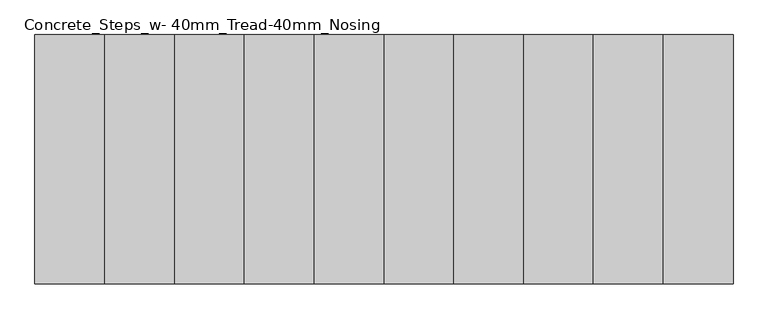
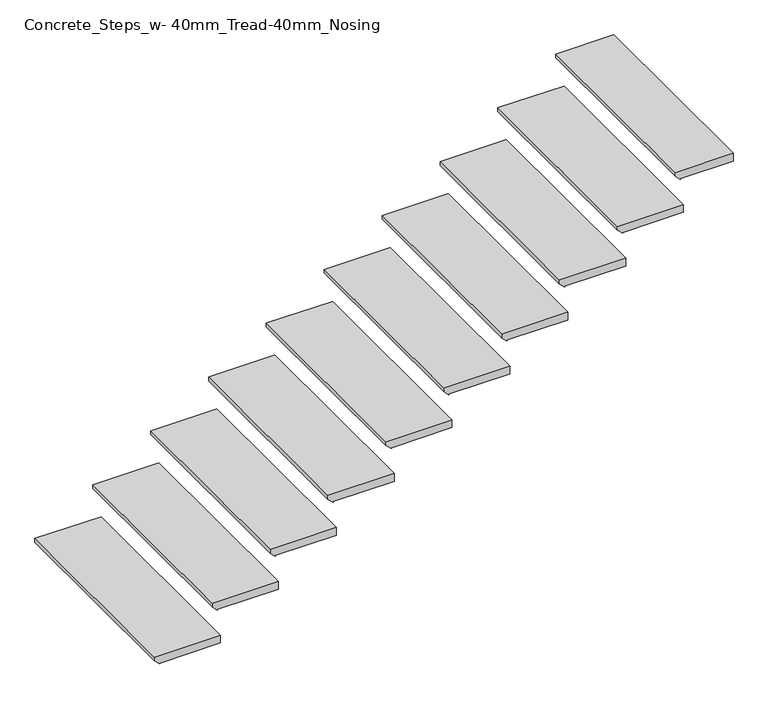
"""IFC4 building model written with IfcOpenShell, lengths in millimetres: stair flight geometry, Concrete_Steps_w- 40mm_Tread-40mm_Nosing."""

from ifc_helpers import new_model, si_unit, frame, origin, place, context, project, spatial, polyline, outline, extrude, source, transform, mapped, element, save


def concrete_steps_w_40mm_tread_40mm_nosing_ad7ad8f2(model_context):
    return source(origin(), model_context, "Body", "SweptSolid", [
        extrude(outline(polyline([(7627.5, 35605.7942367), (7627.5, 35285.7942367), (7608.45, 35285.7942367), (7583.05, 35311.1942367), (7587.5, 35311.1942367), (7587.5, 35605.7942367), (7627.5, 35605.7942367)])), frame((0.0, -998.1974508, 0.0), z_axis=(0.0, 1.0, 0.0), x_axis=(0.0, 0.0, 1.0)), (0.0, 0.0, 1.0), 1000.0),
        extrude(outline(polyline([(7805.0, 35885.7942367), (7805.0, 35565.7942367), (7785.95, 35565.7942367), (7760.55, 35591.1942367), (7765.0, 35591.1942367), (7765.0, 35885.7942367), (7805.0, 35885.7942367)])), frame((0.0, -998.1974508, 0.0), z_axis=(0.0, 1.0, 0.0), x_axis=(0.0, 0.0, 1.0)), (0.0, 0.0, 1.0), 1000.0),
        extrude(outline(polyline([(7982.5, 36165.7942367), (7982.5, 35845.7942367), (7963.45, 35845.7942367), (7938.05, 35871.1942367), (7942.5, 35871.1942367), (7942.5, 36165.7942367), (7982.5, 36165.7942367)])), frame((0.0, -998.1974508, 0.0), z_axis=(0.0, 1.0, 0.0), x_axis=(0.0, 0.0, 1.0)), (0.0, 0.0, 1.0), 1000.0),
        extrude(outline(polyline([(8160.0, 36445.7942367), (8160.0, 36125.7942367), (8140.95, 36125.7942367), (8115.55, 36151.1942367), (8120.0, 36151.1942367), (8120.0, 36445.7942367), (8160.0, 36445.7942367)])), frame((0.0, -998.1974508, 0.0), z_axis=(0.0, 1.0, 0.0), x_axis=(0.0, 0.0, 1.0)), (0.0, 0.0, 1.0), 1000.0),
        extrude(outline(polyline([(8337.5, 36725.7942367), (8337.5, 36405.7942367), (8318.45, 36405.7942367), (8293.05, 36431.1942367), (8297.5, 36431.1942367), (8297.5, 36725.7942367), (8337.5, 36725.7942367)])), frame((0.0, -998.1974508, 0.0), z_axis=(0.0, 1.0, 0.0), x_axis=(0.0, 0.0, 1.0)), (0.0, 0.0, 1.0), 1000.0),
        extrude(outline(polyline([(8515.0, 37005.7942367), (8515.0, 36685.7942367), (8495.95, 36685.7942367), (8470.55, 36711.1942367), (8475.0, 36711.1942367), (8475.0, 37005.7942367), (8515.0, 37005.7942367)])), frame((0.0, -998.1974508, 0.0), z_axis=(0.0, 1.0, 0.0), x_axis=(0.0, 0.0, 1.0)), (0.0, 0.0, 1.0), 1000.0),
        extrude(outline(polyline([(8692.5, 37285.7942367), (8692.5, 36965.7942367), (8673.45, 36965.7942367), (8648.05, 36991.1942367), (8652.5, 36991.1942367), (8652.5, 37285.7942367), (8692.5, 37285.7942367)])), frame((0.0, -998.1974508, 0.0), z_axis=(0.0, 1.0, 0.0), x_axis=(0.0, 0.0, 1.0)), (0.0, 0.0, 1.0), 1000.0),
        extrude(outline(polyline([(8870.0, 37565.7942367), (8870.0, 37245.7942367), (8850.95, 37245.7942367), (8825.55, 37271.1942367), (8830.0, 37271.1942367), (8830.0, 37565.7942367), (8870.0, 37565.7942367)])), frame((0.0, -998.1974508, 0.0), z_axis=(0.0, 1.0, 0.0), x_axis=(0.0, 0.0, 1.0)), (0.0, 0.0, 1.0), 1000.0),
        extrude(outline(polyline([(9047.5, 37845.7942367), (9047.5, 37525.7942367), (9028.45, 37525.7942367), (9003.05, 37551.1942367), (9007.5, 37551.1942367), (9007.5, 37845.7942367), (9047.5, 37845.7942367)])), frame((0.0, -998.1974508, 0.0), z_axis=(0.0, 1.0, 0.0), x_axis=(0.0, 0.0, 1.0)), (0.0, 0.0, 1.0), 1000.0),
        extrude(outline(polyline([(9225.0, 38085.7942367), (9225.0, 37805.7942367), (9205.95, 37805.7942367), (9180.55, 37831.1942367), (9185.0, 37831.1942367), (9185.0, 38085.7942367), (9225.0, 38085.7942367)])), frame((0.0, -998.1974508, 0.0), z_axis=(0.0, 1.0, 0.0), x_axis=(0.0, 0.0, 1.0)), (0.0, 0.0, 1.0), 1000.0),
    ])


if __name__ == "__main__":
    model = new_model("IFC4")
    model_context = context("Model", 3, world=origin())
    ifc_project = project(units=[si_unit("LENGTHUNIT", "METRE", prefix="MILLI")], contexts=[model_context])
    site = spatial("IfcSite", under=ifc_project)
    building = spatial("IfcBuilding", under=site)
    placement = place(None, origin())
    concrete_steps_w_40mm_tread_40mm_nosing_shape = concrete_steps_w_40mm_tread_40mm_nosing_ad7ad8f2(model_context)
    element("IfcStairFlight", 1, ObjectType="Concrete_Steps_w- 40mm_Tread-40mm_Nosing", at=placement, inside=building, context=model_context, shape_type="MappedRepresentation", body=[
        mapped(concrete_steps_w_40mm_tread_40mm_nosing_shape, transform((0.0, 0.0, 0.0), x_axis=(1.0, 0.0, 0.0), y_axis=(0.0, 1.0, 0.0), z_axis=(0.0, 0.0, 1.0))),
    ])
    save(model, "model.ifc")
